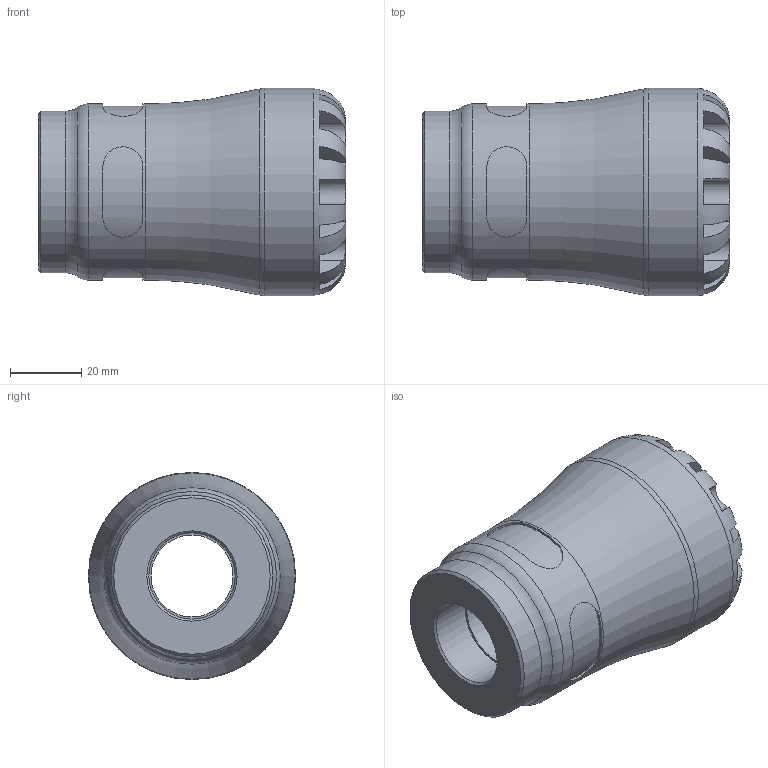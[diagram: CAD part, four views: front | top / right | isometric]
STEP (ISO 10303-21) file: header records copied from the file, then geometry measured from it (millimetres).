
FILE_DESCRIPTION(/* description */ ('PLASSON FEMALE INTEGRAL BRASS THREAD 32X3/4" G SERIES 1'),/* implementation_level */ '2;1');
FILE_NAME(/* name */ 'C:\Dropbox\KIMPROJECTS-Inventor\99-16-3568-Processing\1073G\1073G0032007.ipt.stp',/* time_stamp */ '2017-01-22T11:38:02+02:00',/* author */ ('KIM'),/* organization */ (''),/* preprocessor_version */ 'ST-DEVELOPER v15.6',/* originating_system */ 'Autodesk Inventor 2015',/* authorisation */ '');
FILE_SCHEMA (('AUTOMOTIVE_DESIGN { 1 0 10303 214 3 1 1 }'));
Length unit declared in the file: millimetre
Products named in the file (1): 1073G0032007
Bounding box: 86 x 58 x 58 mm (x, y, z)
Volume: 119978.8 mm3; surface area: 26398.9 mm2
Topology: 1 solids, 1 shells, 104 faces, 255 edges, 159 vertices
Faces by surface type: plane 61, cylinder 35, torus 5, cone 3
Full cylindrical faces by diameter (mm): 22.911 x1, 24.117 x1, 26.667 x1, 32 x1, 45.24 x1, 49.3 x1, 58 x1
Entity records: 3752 total; most frequent: CARTESIAN_POINT 1417, DIRECTION 472, ORIENTED_EDGE 470, EDGE_CURVE 235, AXIS2_PLACEMENT_3D 196, VERTEX_POINT 155, EDGE_LOOP 128, FACE_OUTER_BOUND 104
